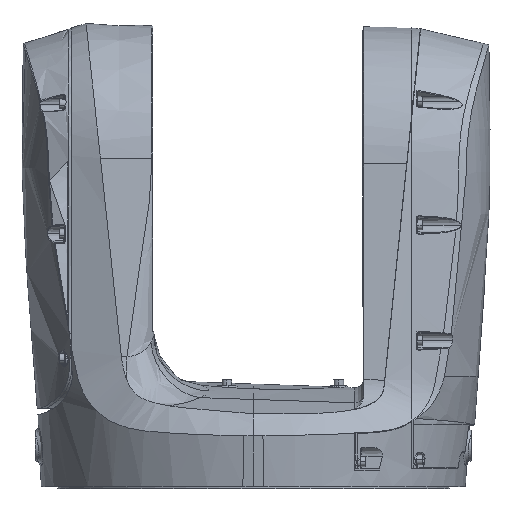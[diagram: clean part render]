
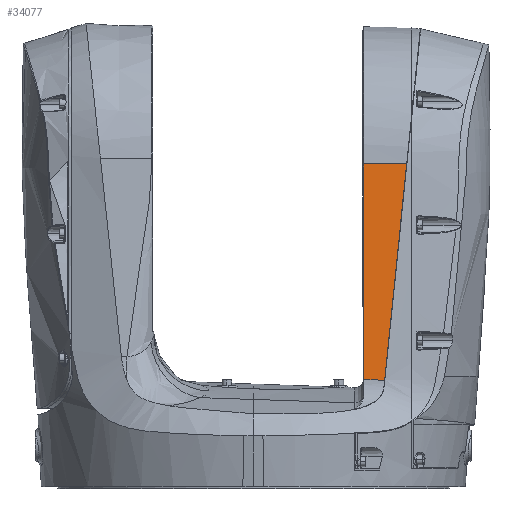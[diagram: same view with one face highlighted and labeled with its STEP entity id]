
A CAD part, left-side view. The second image highlights one B-rep face of the part: STEP entity #34077.
In plain terms, the highlighted planar face has unit normal (-0.999, -0.035, 0.035).
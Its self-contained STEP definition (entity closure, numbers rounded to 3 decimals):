
#9 = CARTESIAN_POINT ( 'NONE',  ( -79.951, -62., 401.572 ) ) ;
#58 = CARTESIAN_POINT ( 'NONE',  ( -82.998, -75.844, 300.47 ) ) ;
#323 = CARTESIAN_POINT ( 'NONE',  ( -79.594, -84.888, 388.907 ) ) ;
#1577 = VERTEX_POINT ( 'NONE', #44559 ) ;
#2701 = VECTOR ( 'NONE', #15660, 1000. ) ;
#3856 = CARTESIAN_POINT ( 'NONE',  ( -79.951, -61.994, 401.572 ) ) ;
#4325 = CARTESIAN_POINT ( 'NONE',  ( -80.08, -83.595, 376.273 ) ) ;
#4617 = DIRECTION ( 'NONE',  ( -0.035, 0.999, 0. ) ) ;
#6400 = ORIENTED_EDGE ( 'NONE', *, *, #7596, .T. ) ;
#7005 = EDGE_CURVE ( 'NONE', #36355, #1577, #34442, .T. ) ;
#7528 = CARTESIAN_POINT ( 'NONE',  ( -83.387, -74.813, 290.363 ) ) ;
#7596 = EDGE_CURVE ( 'NONE', #37864, #26929, #20474, .T. ) ;
#7620 = CARTESIAN_POINT ( 'NONE',  ( -83.787, -73.779, 279.936 ) ) ;
#7722 = VERTEX_POINT ( 'NONE', #25774 ) ;
#8050 = CARTESIAN_POINT ( 'NONE',  ( -83.726, -73.943, 281.516 ) ) ;
#8064 = CARTESIAN_POINT ( 'NONE',  ( -84.176, -62.343, 280.245 ) ) ;
#8560 = CARTESIAN_POINT ( 'NONE',  ( -79.205, -85.919, 399.014 ) ) ;
#8647 = CARTESIAN_POINT ( 'NONE',  ( -83.783, -73.788, 280.042 ) ) ;
#9457 = CARTESIAN_POINT ( 'NONE',  ( -80.038, -61.995, 399.1 ) ) ;
#11533 = CARTESIAN_POINT ( 'NONE',  ( -79.132, -86.106, 400.91 ) ) ;
#11783 = CARTESIAN_POINT ( 'NONE',  ( -79.886, -84.112, 381.327 ) ) ;
#12294 = CARTESIAN_POINT ( 'NONE',  ( -79.351, -85.535, 395.224 ) ) ;
#12297 = AXIS2_PLACEMENT_3D ( 'NONE', #41245, #40988, #4617 ) ;
#12648 = CARTESIAN_POINT ( 'NONE',  ( -80.093, -61.997, 397.526 ) ) ;
#12683 = CARTESIAN_POINT ( 'NONE',  ( -79.98, -61.994, 400.748 ) ) ;
#14434 = EDGE_LOOP ( 'NONE', ( #36441, #41949, #6400, #40195, #22929, #25152, #17724 ) ) ;
#15660 = DIRECTION ( 'NONE',  ( 0.035, 0., 0.999 ) ) ;
#16277 = CARTESIAN_POINT ( 'NONE',  ( -80.664, -82.045, 361.113 ) ) ;
#16541 = CARTESIAN_POINT ( 'NONE',  ( -83.678, -74.065, 282.78 ) ) ;
#16934 = CARTESIAN_POINT ( 'NONE',  ( -80.009, -61.995, 399.924 ) ) ;
#17724 = ORIENTED_EDGE ( 'NONE', *, *, #40821, .T. ) ;
#18604 = EDGE_CURVE ( 'NONE', #1577, #37864, #30478, .T. ) ;
#18701 = B_SPLINE_CURVE_WITH_KNOTS ( 'NONE', 3,
 ( #24906, #12683, #16934, #41887 ),
 .UNSPECIFIED., .F., .F.,
 ( 4, 4 ),
 ( 0., 0.002 ),
 .UNSPECIFIED. ) ;
#19740 = CARTESIAN_POINT ( 'NONE',  ( -83.29, -75.069, 292.89 ) ) ;
#20474 = LINE ( 'NONE', #9, #22967 ) ;
#22929 = ORIENTED_EDGE ( 'NONE', *, *, #43889, .T. ) ;
#22967 = VECTOR ( 'NONE', #24192, 1000. ) ;
#23718 = CARTESIAN_POINT ( 'NONE',  ( -79.156, -86.044, 400.278 ) ) ;
#23971 = B_SPLINE_CURVE_WITH_KNOTS ( 'NONE', 3,
 ( #9457, #12648, #45052, #24869 ),
 .UNSPECIFIED., .F., .F.,
 ( 4, 4 ),
 ( 0.002, 0.007 ),
 .UNSPECIFIED. ) ;
#24192 = DIRECTION ( 'NONE',  ( -0.035, 0.999, 0.001 ) ) ;
#24495 = CARTESIAN_POINT ( 'NONE',  ( -82.804, -76.362, 305.524 ) ) ;
#24748 = VECTOR ( 'NONE', #40192, 1000. ) ;
#24869 = CARTESIAN_POINT ( 'NONE',  ( -80.203, -62., 394.377 ) ) ;
#24906 = CARTESIAN_POINT ( 'NONE',  ( -79.951, -61.994, 401.572 ) ) ;
#25152 = ORIENTED_EDGE ( 'NONE', *, *, #41641, .F. ) ;
#25554 = CARTESIAN_POINT ( 'NONE',  ( -79.108, -86.164, 401.543 ) ) ;
#25774 = CARTESIAN_POINT ( 'NONE',  ( -80.203, -62., 394.377 ) ) ;
#26929 = VERTEX_POINT ( 'NONE', #3856 ) ;
#27602 = LINE ( 'NONE', #52044, #2701 ) ;
#28240 = CARTESIAN_POINT ( 'NONE',  ( -80.038, -61.995, 399.1 ) ) ;
#28741 = CARTESIAN_POINT ( 'NONE',  ( -79.497, -85.147, 391.434 ) ) ;
#28755 = LINE ( 'NONE', #8064, #24748 ) ;
#29042 = FACE_OUTER_BOUND ( 'NONE', #14434, .T. ) ;
#30478 = B_SPLINE_CURVE_WITH_KNOTS ( 'NONE', 3,
 ( #36443, #8050, #16541, #48156, #52150, #7528, #19740, #58, #24495, #35936, #40180, #32447, #16277, #4325, #11783, #323, #28741, #12294, #32709, #44690, #8560, #23718, #11533, #35664 ),
 .UNSPECIFIED., .F., .F.,
 ( 4, 2, 2, 2, 2, 2, 2, 2, 2, 2, 2, 4 ),
 ( 0., 0.004, 0.008, 0.015, 0.031, 0.061, 0.092, 0.107, 0.114, 0.118, 0.12, 0.122 ),
 .UNSPECIFIED. ) ;
#32447 = CARTESIAN_POINT ( 'NONE',  ( -81.053, -81.013, 351.006 ) ) ;
#32709 = CARTESIAN_POINT ( 'NONE',  ( -79.302, -85.665, 396.487 ) ) ;
#33591 = CARTESIAN_POINT ( 'NONE',  ( -83.775, -73.811, 280.253 ) ) ;
#34077 = ADVANCED_FACE ( 'NONE', ( #29042 ), #45776, .F. ) ;
#34442 = B_SPLINE_CURVE_WITH_KNOTS ( 'NONE', 3,
 ( #41829, #8647, #36800, #33591 ),
 .UNSPECIFIED., .F., .F.,
 ( 4, 4 ),
 ( 0., 0. ),
 .UNSPECIFIED. ) ;
#34888 = CARTESIAN_POINT ( 'NONE',  ( -84.188, -62., 280.255 ) ) ;
#35664 = CARTESIAN_POINT ( 'NONE',  ( -79.108, -86.164, 401.543 ) ) ;
#35936 = CARTESIAN_POINT ( 'NONE',  ( -82.22, -77.913, 320.684 ) ) ;
#36355 = VERTEX_POINT ( 'NONE', #7620 ) ;
#36441 = ORIENTED_EDGE ( 'NONE', *, *, #7005, .T. ) ;
#36443 = CARTESIAN_POINT ( 'NONE',  ( -83.775, -73.811, 280.253 ) ) ;
#36800 = CARTESIAN_POINT ( 'NONE',  ( -83.779, -73.8, 280.147 ) ) ;
#37864 = VERTEX_POINT ( 'NONE', #25554 ) ;
#38744 = VERTEX_POINT ( 'NONE', #28240 ) ;
#40180 = CARTESIAN_POINT ( 'NONE',  ( -81.831, -78.947, 330.791 ) ) ;
#40192 = DIRECTION ( 'NONE',  ( 0.034, -0.999, -0.027 ) ) ;
#40195 = ORIENTED_EDGE ( 'NONE', *, *, #45811, .T. ) ;
#40821 = EDGE_CURVE ( 'NONE', #44877, #36355, #28755, .T. ) ;
#40988 = DIRECTION ( 'NONE',  ( 0.999, 0.035, -0.035 ) ) ;
#41245 = CARTESIAN_POINT ( 'NONE',  ( -84.652, -62., 266.952 ) ) ;
#41641 = EDGE_CURVE ( 'NONE', #44877, #7722, #27602, .T. ) ;
#41829 = CARTESIAN_POINT ( 'NONE',  ( -83.787, -73.779, 279.936 ) ) ;
#41887 = CARTESIAN_POINT ( 'NONE',  ( -80.038, -61.995, 399.1 ) ) ;
#41949 = ORIENTED_EDGE ( 'NONE', *, *, #18604, .T. ) ;
#43889 = EDGE_CURVE ( 'NONE', #38744, #7722, #23971, .T. ) ;
#44559 = CARTESIAN_POINT ( 'NONE',  ( -83.775, -73.811, 280.253 ) ) ;
#44690 = CARTESIAN_POINT ( 'NONE',  ( -79.229, -85.856, 398.383 ) ) ;
#44877 = VERTEX_POINT ( 'NONE', #34888 ) ;
#45052 = CARTESIAN_POINT ( 'NONE',  ( -80.148, -62., 395.951 ) ) ;
#45776 = PLANE ( 'NONE',  #12297 ) ;
#45811 = EDGE_CURVE ( 'NONE', #26929, #38744, #18701, .T. ) ;
#48156 = CARTESIAN_POINT ( 'NONE',  ( -83.581, -74.311, 285.308 ) ) ;
#52044 = CARTESIAN_POINT ( 'NONE',  ( -84.652, -62., 266.952 ) ) ;
#52150 = CARTESIAN_POINT ( 'NONE',  ( -83.533, -74.435, 286.572 ) ) ;
